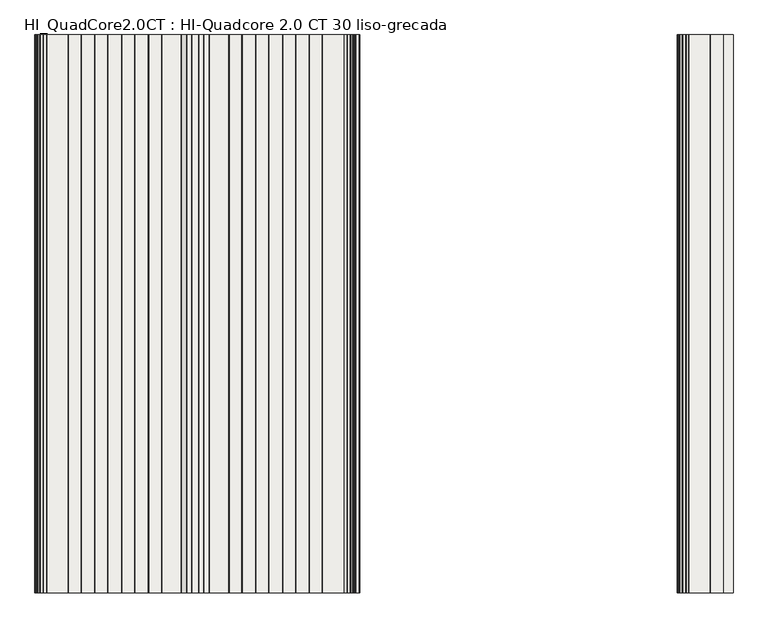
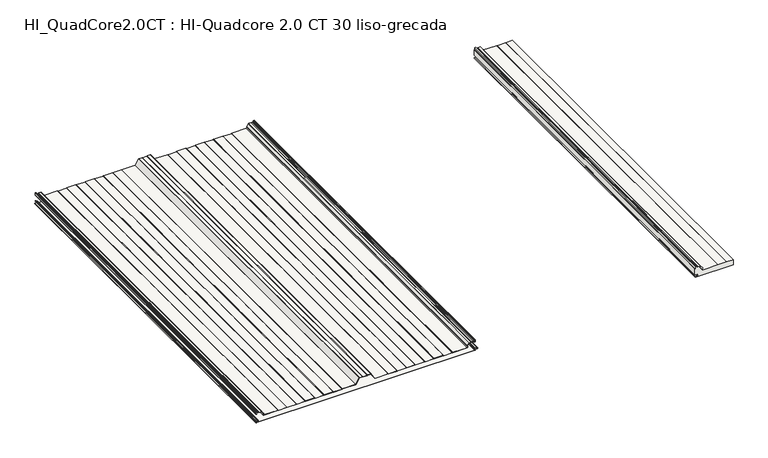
"""IFC4 building model written with IfcOpenShell, lengths in millimetres: slab geometry, HI_QuadCore2.0CT : HI-Quadcore 2.0 CT 30 liso-grecada."""

from ifc_helpers import new_model, si_unit, point, frame, frame_2d, origin, place, context, project, spatial, polyline, circle_curve, trimmed, segment, composite_curve, outline, extrude, source, transform, mapped, element, save
from ifc_brep_helpers import plane_surface, cylinder_surface, revolved_surface, advanced_brep


def hi_quadcore2_0ct_hi_quadcore_2_0_ct_30_liso_grecada_7c60fad7(model_context):
    return source(origin(), model_context, "Body", "SolidModel", [
        advanced_brep(
        [(2305.1475465, 0.0, 45.7425833), (2301.3824194, 0.0, 47.9163804), (2300.0, 0.0, 47.9163804), (2300.0, 0.0, 16.239302), (2307.510215, 0.0, 16.239302), (2307.510215, 0.0, 15.4391074), (2303.6125693, 0.0, 15.4391074), (2302.4319301, 0.0, 14.2584682), (2303.4276302, 0.0, 13.0866965), (2311.8278581, 0.0, 11.7547343), (2311.7995989, 0.0, 4.4809044), (2301.8467032, 0.0, 2.9844289), (2302.0100062, 0.0, 0.8), (2500.0, 0.0, 0.8), (2500.0, 0.0, 29.2), (2467.3816122, 0.0, 29.2), (2465.6495614, 0.0, 28.2), (2420.6152775, 0.0, 28.2), (2418.8832267, 0.0, 29.2), (2342.7795617, 0.0, 29.2), (2339.9577511, 0.0, 36.2744555), (2340.9081159, 0.0, 37.0692788), (2341.1089583, 0.0, 38.5361221), (2331.7709236, 0.0, 52.1230469), (2330.8643848, 0.0, 52.6), (2321.5371875, 0.0, 52.6), (2319.8324194, 0.0, 51.8110374), (2318.1276514, 0.0, 52.6), (2311.4016791, 0.0, 52.6), (2309.2490397, 0.0, 54.0383476), (2307.3922843, 0.0, 58.5209518), (2306.3760168, 0.0, 59.2), (2302.7824194, 0.0, 59.2), (2301.6824194, 0.0, 58.1), (2301.6824194, 0.0, 48.6669358), (2305.5475465, 0.0, 46.4354036), (2305.1475465, 2000.0, 45.7425833), (2305.5475465, 2000.0, 46.4354036), (2301.6824194, 2000.0, 48.6669358), (2301.6824194, 2000.0, 58.1), (2302.7824194, 2000.0, 59.2), (2306.3760168, 2000.0, 59.2), (2307.3922843, 2000.0, 58.5209518), (2309.2490397, 2000.0, 54.0383476), (2311.4016791, 2000.0, 52.6), (2318.1276514, 2000.0, 52.6), (2319.8324194, 2000.0, 51.8110374), (2321.5371875, 2000.0, 52.6), (2330.8643848, 2000.0, 52.6), (2331.7709236, 2000.0, 52.1230469), (2341.1089583, 2000.0, 38.5361221), (2340.9081159, 2000.0, 37.0692788), (2339.9577511, 2000.0, 36.2744555), (2342.7795617, 2000.0, 29.2), (2418.8832267, 2000.0, 29.2), (2420.6152775, 2000.0, 28.2), (2465.6495614, 2000.0, 28.2), (2467.3816122, 2000.0, 29.2), (2500.0, 2000.0, 29.2), (2500.0, 2000.0, 0.8), (2302.0100062, 2000.0, 0.8), (2301.8467032, 2000.0, 2.9844289), (2311.7995989, 2000.0, 4.4809044), (2311.8278581, 2000.0, 11.7547343), (2303.4273037, 2000.0, 13.0846342), (2302.4319301, 2000.0, 14.2584682), (2303.6125693, 2000.0, 15.4391074), (2307.510215, 2000.0, 15.4391074), (2307.510215, 2000.0, 16.239302), (2300.0, 2000.0, 16.239302), (2300.0, 2000.0, 47.9163804), (2301.3824194, 2000.0, 47.9163804)],
        [
            (0, 1),
            (1, 2),
            (2, 3),
            (3, 4),
            (4, 5),
            (5, 6),
            (6, 7, circle_curve(frame((2303.6125693, 0.0, 14.2584682), z_axis=(0.0, -1.0, 0.0), x_axis=(1.0, 0.0, 0.0)), 1.1806391)),
            (7, 8, circle_curve(frame((2303.6121809, 0.0, 14.2524448), z_axis=(0.0, -1.0, 0.0), x_axis=(1.0, 0.0, 0.0)), 1.1802661)),
            (8, 9),
            (9, 10, circle_curve(frame((2311.2524398, 0.0, 8.12), z_axis=(0.0, 1.0, 0.0), x_axis=(1.0, 0.0, 0.0)), 3.68)),
            (10, 11),
            (11, 12, circle_curve(frame((2302.0100062, 0.0, 1.8983185), z_axis=(0.0, -1.0, 0.0), x_axis=(1.0, 0.0, 0.0)), 1.0983185)),
            (12, 13),
            (13, 14),
            (14, 15),
            (15, 16),
            (16, 17),
            (17, 18),
            (18, 19),
            (19, 20, circle_curve(frame((2342.7795617, 0.0, 33.3), z_axis=(0.0, 1.0, 0.0), x_axis=(1.0, 0.0, 0.0)), 4.1)),
            (20, 21),
            (21, 22, circle_curve(frame((2340.2024195, 0.0, 37.9130752), z_axis=(0.0, -1.0, 0.0), x_axis=(1.0, 0.0, 0.0)), 1.1)),
            (22, 23),
            (23, 24, circle_curve(frame((2330.8643848, 0.0, 51.5), z_axis=(0.0, -1.0, 0.0), x_axis=(1.0, 0.0, 0.0)), 1.1)),
            (24, 25),
            (25, 26),
            (26, 27),
            (27, 28),
            (28, 29, circle_curve(frame((2311.4016791, 0.0, 54.93), z_axis=(0.0, 1.0, 0.0), x_axis=(1.0, 0.0, 0.0)), 2.33)),
            (29, 30),
            (30, 31, circle_curve(frame((2306.3760168, 0.0, 58.1), z_axis=(0.0, -1.0, 0.0), x_axis=(1.0, 0.0, 0.0)), 1.1)),
            (31, 32),
            (32, 33, circle_curve(frame((2302.7824194, 0.0, 58.1), z_axis=(0.0, -1.0, 0.0), x_axis=(1.0, 0.0, 0.0)), 1.1)),
            (33, 34),
            (34, 35),
            (35, 0),
            (36, 37),
            (37, 38),
            (38, 39),
            (39, 40, circle_curve(frame((2302.7824194, 2000.0, 58.1), z_axis=(0.0, 1.0, 0.0), x_axis=(1.0, 0.0, 0.0)), 1.1)),
            (40, 41),
            (41, 42, circle_curve(frame((2306.3760168, 2000.0, 58.1), z_axis=(0.0, 1.0, 0.0), x_axis=(1.0, 0.0, 0.0)), 1.1)),
            (42, 43),
            (43, 44, circle_curve(frame((2311.4016791, 2000.0, 54.93), z_axis=(0.0, -1.0, 0.0), x_axis=(1.0, 0.0, 0.0)), 2.33)),
            (44, 45),
            (45, 46),
            (46, 47),
            (47, 48),
            (48, 49, circle_curve(frame((2330.8643848, 2000.0, 51.5), z_axis=(0.0, 1.0, 0.0), x_axis=(1.0, 0.0, 0.0)), 1.1)),
            (49, 50),
            (50, 51, circle_curve(frame((2340.2024195, 2000.0, 37.9130752), z_axis=(0.0, 1.0, 0.0), x_axis=(1.0, 0.0, 0.0)), 1.1)),
            (51, 52),
            (52, 53, circle_curve(frame((2342.7795617, 2000.0, 33.3), z_axis=(0.0, -1.0, 0.0), x_axis=(1.0, 0.0, 0.0)), 4.1)),
            (53, 54),
            (54, 55),
            (55, 56),
            (56, 57),
            (57, 58),
            (58, 59),
            (59, 60),
            (60, 61, circle_curve(frame((2302.0100062, 2000.0, 1.8983185), z_axis=(0.0, 1.0, 0.0), x_axis=(1.0, 0.0, 0.0)), 1.0983185)),
            (61, 62),
            (62, 63, circle_curve(frame((2311.2524398, 2000.0, 8.12), z_axis=(0.0, -1.0, 0.0), x_axis=(1.0, 0.0, 0.0)), 3.68)),
            (63, 64),
            (64, 65, circle_curve(frame((2303.6121809, 2000.0, 14.2524448), z_axis=(0.0, 1.0, 0.0), x_axis=(1.0, 0.0, 0.0)), 1.1802661)),
            (65, 66, circle_curve(frame((2303.6125693, 2000.0, 14.2584682), z_axis=(0.0, 1.0, 0.0), x_axis=(1.0, 0.0, 0.0)), 1.1806391)),
            (66, 67),
            (67, 68),
            (68, 69),
            (69, 70),
            (70, 71),
            (71, 36),
            (0, 36),
            (71, 1),
            (70, 2),
            (69, 3),
            (57, 15),
            (14, 58),
            (56, 16),
            (55, 17),
            (54, 18),
            (53, 19),
            (52, 20),
            (51, 21),
            (50, 22),
            (49, 23),
            (48, 24),
            (47, 25),
            (46, 26),
            (45, 27),
            (44, 28),
            (43, 29),
            (42, 30),
            (41, 31),
            (40, 32),
            (39, 33),
            (38, 34),
            (37, 35),
            (68, 4),
            (67, 5),
            (66, 6),
            (65, 7),
            (64, 8),
            (63, 9),
            (62, 10),
            (61, 11),
            (60, 12),
            (59, 13),
        ],
        [
            plane_surface(frame((2301.3824194, 0.0, 47.9163804), z_axis=(0.0, -1.0, 0.0), x_axis=(-0.866025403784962, 0.0, 0.4999999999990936))),
            plane_surface(frame((2301.3824194, 2000.0, 47.9163804), z_axis=(0.0, 1.0, 0.0), x_axis=(0.866025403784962, 0.0, -0.4999999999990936))),
            plane_surface(frame((2305.1475465, 0.0, 45.7425833), z_axis=(0.4999999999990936, 0.0, 0.866025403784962), x_axis=(0.0, 1.0, 0.0))),
            plane_surface(frame((2301.3824194, 0.0, 47.9163804), z_axis=(0.0, 0.0, 1.0), x_axis=(0.0, 1.0, 0.0))),
            plane_surface(frame((2300.0, 0.0, 47.9163804), z_axis=(-1.0, 0.0, 0.0), x_axis=(0.0, 1.0, 0.0))),
            plane_surface(frame((2514.8832267, 0.0, 29.2), z_axis=(0.0, 0.0, 1.0), x_axis=(0.0, 1.0, 0.0))),
            plane_surface(frame((2467.3816122, 0.0, 29.2), z_axis=(-0.5000000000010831, 0.0, 0.8660254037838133), x_axis=(0.0, 1.0, 0.0))),
            plane_surface(frame((2465.6495614, 0.0, 28.2), z_axis=(0.0, 0.0, 1.0), x_axis=(0.0, 1.0, 0.0))),
            plane_surface(frame((2420.6152775, 0.0, 28.2), z_axis=(0.4999999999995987, 0.0, 0.8660254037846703), x_axis=(0.0, 1.0, 0.0))),
            plane_surface(frame((2418.8832267, 0.0, 29.2), z_axis=(0.0, 0.0, 1.0), x_axis=(0.0, 1.0, 0.0))),
            revolved_surface(polyline([(2346.8795617, 2000.0, 33.3), (2346.8795617, 0.0, 33.3)]), (2342.7795617, 2000.0, 33.3), (0.0, 1.0, 0.0)),
            plane_surface(frame((2339.9577511, 0.0, 36.2744555), z_axis=(0.6415422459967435, 0.0, -0.7670877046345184), x_axis=(0.0, 1.0, 0.0))),
            cylinder_surface(frame((2340.2024195, 2000.0, 37.9130752), z_axis=(0.0, -1.0, 0.0), x_axis=(1.0, 0.0, 0.0)), 1.1),
            plane_surface(frame((2341.1089583, 0.0, 38.5361221), z_axis=(0.8241261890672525, 0.0, 0.5664062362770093), x_axis=(0.0, 1.0, 0.0))),
            cylinder_surface(frame((2330.8643848, 2000.0, 51.5), z_axis=(0.0, -1.0, 0.0), x_axis=(1.0, 0.0, 0.0)), 1.1),
            plane_surface(frame((2330.8643848, 0.0, 52.6), z_axis=(0.0, 0.0, 1.0), x_axis=(0.0, 1.0, 0.0))),
            plane_surface(frame((2321.5371875, 0.0, 52.6), z_axis=(-0.419999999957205, 0.0, 0.9075241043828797), x_axis=(0.0, 1.0, 0.0))),
            plane_surface(frame((2319.8324194, 0.0, 51.8110374), z_axis=(0.4200000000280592, 0.0, 0.9075241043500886), x_axis=(0.0, 1.0, 0.0))),
            plane_surface(frame((2318.1276514, 0.0, 52.6), z_axis=(0.0, 0.0, 1.0), x_axis=(0.0, 1.0, 0.0))),
            revolved_surface(polyline([(2313.7316791, 2000.0, 54.93), (2313.7316791, 0.0, 54.93)]), (2311.4016791, 2000.0, 54.93), (0.0, 1.0, 0.0)),
            plane_surface(frame((2309.2490397, 0.0, 54.0383476), z_axis=(0.9238795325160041, 0.0, 0.3826834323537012), x_axis=(0.0, 1.0, 0.0))),
            cylinder_surface(frame((2306.3760168, 2000.0, 58.1), z_axis=(0.0, -1.0, 0.0), x_axis=(1.0, 0.0, 0.0)), 1.1),
            plane_surface(frame((2306.3760168, 0.0, 59.2), z_axis=(0.0, 0.0, 1.0), x_axis=(0.0, 1.0, 0.0))),
            cylinder_surface(frame((2302.7824194, 2000.0, 58.1), z_axis=(0.0, -1.0, 0.0), x_axis=(1.0, 0.0, 0.0)), 1.1),
            plane_surface(frame((2301.6824194, 0.0, 58.1), z_axis=(-1.0, 0.0, 0.0), x_axis=(0.0, 1.0, 0.0))),
            plane_surface(frame((2301.6824194, 0.0, 48.6669358), z_axis=(-0.49999999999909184, 0.0, -0.866025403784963), x_axis=(0.0, 1.0, 0.0))),
            plane_surface(frame((2305.5475465, 0.0, 46.4354036), z_axis=(-0.866025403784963, 0.0, 0.4999999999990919), x_axis=(0.0, 1.0, 0.0))),
            plane_surface(frame((2300.0, 0.0, 16.239302), z_axis=(0.0, 0.0, -1.0), x_axis=(0.0, 1.0, 0.0))),
            plane_surface(frame((2307.510215, 0.0, 16.239302), z_axis=(-1.0, 0.0, 0.0), x_axis=(0.0, 1.0, 0.0))),
            plane_surface(frame((2307.510215, 0.0, 15.4391074), z_axis=(0.0, 0.0, 1.0), x_axis=(0.0, 1.0, 0.0))),
            cylinder_surface(frame((2303.6125693, 2000.0, 14.2584682), z_axis=(0.0, -1.0, 0.0), x_axis=(1.0, 0.0, 0.0)), 1.1806391),
            cylinder_surface(frame((2303.6121809, 2000.0, 14.2524448), z_axis=(0.0, -1.0, 0.0), x_axis=(1.0, 0.0, 0.0)), 1.1802661),
            plane_surface(frame((2303.4273037, 0.0, 13.0846342), z_axis=(-0.1563636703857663, 0.0, -0.9876995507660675), x_axis=(0.0, 1.0, 0.0))),
            revolved_surface(polyline([(2314.9324398, 2000.0, 8.12), (2314.9324398, 0.0, 8.12)]), (2311.2524398, 2000.0, 8.12), (0.0, 1.0, 0.0)),
            plane_surface(frame((2311.7995989, 0.0, 4.4809044), z_axis=(-0.14868453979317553, 0.0, 0.9888846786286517), x_axis=(0.0, 1.0, 0.0))),
            cylinder_surface(frame((2302.0100062, 2000.0, 1.8983185), z_axis=(0.0, -1.0, 0.0), x_axis=(1.0, 0.0, 0.0)), 1.0983185),
            plane_surface(frame((2302.0100062, 0.0, 0.8), z_axis=(0.0, 0.0, -1.0), x_axis=(0.0, 1.0, 0.0))),
            plane_surface(frame((2500.0, 0.0, 76.2714688), z_axis=(1.0, 0.0, 0.0), x_axis=(0.0, 1.0, 0.0))),
        ],
        [
            (0, [[1, 2, 3, 4, 5, 6, 7, 8, 9, 10, 11, 12, 13, 14, 15, 16, 17, 18, 19, 20, 21, 22, 23, 24, 25, 26, 27, 28, 29, 30, 31, 32, 33, 34, 35, 36]]),
            (1, [[37, 38, 39, 40, 41, 42, 43, 44, 45, 46, 47, 48, 49, 50, 51, 52, 53, 54, 55, 56, 57, 58, 59, 60, 61, 62, 63, 64, 65, 66, 67, 68, 69, 70, 71, 72]]),
            (2, [[-1, 73, -72, 74]]),
            (3, [[-2, -74, -71, 75]]),
            (4, [[-75, -70, 76, -3]]),
            (5, [[77, -15, 78, -58]]),
            (6, [[-16, -77, -57, 79]]),
            (7, [[-17, -79, -56, 80]]),
            (8, [[-18, -80, -55, 81]]),
            (9, [[-19, -81, -54, 82]]),
            (10, [[-20, -82, -53, 83]]),
            (11, [[-21, -83, -52, 84]]),
            (12, [[-22, -84, -51, 85]]),
            (13, [[-23, -85, -50, 86]]),
            (14, [[-24, -86, -49, 87]]),
            (15, [[-25, -87, -48, 88]]),
            (16, [[-26, -88, -47, 89]]),
            (17, [[-27, -89, -46, 90]]),
            (18, [[-28, -90, -45, 91]]),
            (19, [[-29, -91, -44, 92]]),
            (20, [[-30, -92, -43, 93]]),
            (21, [[-31, -93, -42, 94]]),
            (22, [[-32, -94, -41, 95]]),
            (23, [[-33, -95, -40, 96]]),
            (24, [[-34, -96, -39, 97]]),
            (25, [[-35, -97, -38, 98]]),
            (26, [[-36, -98, -37, -73]]),
            (27, [[-76, -69, 99, -4]]),
            (28, [[-5, -99, -68, 100]]),
            (29, [[-6, -100, -67, 101]]),
            (30, [[-7, -101, -66, 102]]),
            (31, [[-8, -102, -65, 103]]),
            (32, [[-9, -103, -64, 104]]),
            (33, [[-10, -104, -63, 105]]),
            (34, [[-11, -105, -62, 106]]),
            (35, [[-12, -106, -61, 107]]),
            (36, [[-107, -60, 108, -13]]),
            (37, [[-14, -108, -59, -78]]),
        ],
    ),
        advanced_brep(
        [(3.6125412, 0.0, 16.239302), (1.6320413, 0.0, 14.2588021), (3.3026044, 0.0, 12.2960661), (11.7027672, 0.0, 10.9645747), (11.6806488, 0.0, 5.2720118), (1.7277556, 0.0, 3.7755366), (2.0100062, 0.0, 0.0), (1147.9590685, 0.0, 0.0), (1150.1391392, 0.0, 2.1800708), (1152.6636211, 0.0, 5.0353254), (1160.9083654, 0.0, 6.0356531), (1160.9083654, 0.0, 10.2043469), (1150.9419234, 0.0, 11.413338), (1148.6324398, 0.0, 14.0237344), (1147.5187526, 0.0, 16.24), (1142.7624398, 0.0, 16.24), (1142.7624398, 0.0, 15.44), (1147.2282701, 0.0, 15.44), (1147.8324398, 0.0, 14.0237344), (1150.8450446, 0.0, 10.6192254), (1160.7843299, 0.0, 9.4135286), (1160.7843221, 0.0, 6.8264698), (1152.5664905, 0.0, 5.8294074), (1149.3391392, 0.0, 2.1800708), (1147.9590685, 0.0, 0.8), (2.0100062, 0.0, 0.8), (1.8467032, 0.0, 2.9844289), (11.7995989, 0.0, 4.4809044), (11.8278581, 0.0, 11.7547343), (3.4279307, 0.0, 13.084535), (2.4319301, 0.0, 14.2584682), (3.6125693, 0.0, 15.4391074), (7.510215, 0.0, 15.4391074), (7.510215, 0.0, 16.239302), (3.6125412, 2000.0, 16.239302), (7.510215, 2000.0, 16.239302), (7.510215, 2000.0, 15.4391074), (3.6125693, 2000.0, 15.4391074), (2.4319301, 2000.0, 14.2584682), (3.4276302, 2000.0, 13.0866965), (11.8278581, 2000.0, 11.7547343), (11.7995989, 2000.0, 4.4809044), (1.8467032, 2000.0, 2.9844289), (2.0100062, 2000.0, 0.8), (1147.9590685, 2000.0, 0.8), (1149.3391392, 2000.0, 2.1800708), (1152.5664905, 2000.0, 5.8294074), (1160.7843221, 2000.0, 6.8264698), (1160.7843299, 2000.0, 9.4135286), (1150.8450446, 2000.0, 10.6192254), (1147.8324398, 2000.0, 14.0237344), (1147.2282701, 2000.0, 15.44), (1142.7624398, 2000.0, 15.44), (1142.7624398, 2000.0, 16.24), (1147.5187526, 2000.0, 16.24), (1148.6324398, 2000.0, 14.0237344), (1150.9419234, 2000.0, 11.413338), (1160.9083654, 2000.0, 10.2043469), (1160.9083654, 2000.0, 6.0356531), (1152.6636211, 2000.0, 5.0353254), (1150.1391392, 2000.0, 2.1800708), (1147.9590685, 2000.0, 0.0), (2.0100062, 2000.0, 0.0), (1.7277556, 2000.0, 3.7755366), (11.6806488, 2000.0, 5.2720118), (11.7027672, 2000.0, 10.9645747), (3.3028397, 2000.0, 12.2943753), (1.6320413, 2000.0, 14.2588021)],
        [
            (0, 1, circle_curve(frame((3.6125412, 0.0, 14.2588021), z_axis=(0.0, -1.0, 0.0), x_axis=(1.0, 0.0, 0.0)), 1.9804999)),
            (1, 2, circle_curve(frame((3.612237, 0.0, 14.2519163), z_axis=(0.0, -1.0, 0.0), x_axis=(1.0, 0.0, 0.0)), 1.9802076)),
            (2, 3),
            (3, 4, circle_curve(frame((11.2524398, 0.0, 8.12), z_axis=(0.0, 1.0, 0.0), x_axis=(1.0, 0.0, 0.0)), 2.88)),
            (4, 5),
            (5, 6, circle_curve(frame((2.0100062, 0.0, 1.8983185), z_axis=(0.0, -1.0, 0.0), x_axis=(1.0, 0.0, 0.0)), 1.8983185)),
            (6, 7),
            (7, 8, circle_curve(frame((1147.9590685, 0.0, 2.1800708), z_axis=(0.0, -1.0, 0.0), x_axis=(1.0, 0.0, 0.0)), 2.1800708)),
            (8, 9, circle_curve(frame((1153.0160638, 0.0, 2.1800708), z_axis=(0.0, 1.0, 0.0), x_axis=(1.0, 0.0, 0.0)), 2.8769246)),
            (9, 10),
            (10, 11, circle_curve(frame((1160.5224398, 0.0, 8.12), z_axis=(0.0, -1.0, 0.0), x_axis=(1.0, 0.0, 0.0)), 2.1197737)),
            (11, 12),
            (12, 13, circle_curve(frame((1151.2624398, 0.0, 14.0237344), z_axis=(0.0, 1.0, 0.0), x_axis=(1.0, 0.0, 0.0)), 2.63)),
            (13, 14, circle_curve(frame((1145.8703839, 0.0, 14.0237344), z_axis=(0.0, -1.0, 0.0), x_axis=(1.0, 0.0, 0.0)), 2.7620559)),
            (14, 15),
            (15, 16),
            (16, 17),
            (17, 18, circle_curve(frame((1145.8703839, 0.0, 14.0237344), z_axis=(0.0, 1.0, 0.0), x_axis=(1.0, 0.0, 0.0)), 1.9620559)),
            (18, 19, circle_curve(frame((1151.2624398, 0.0, 14.0237344), z_axis=(0.0, -1.0, 0.0), x_axis=(1.0, 0.0, 0.0)), 3.43)),
            (19, 20),
            (20, 21, circle_curve(frame((1160.5224398, 0.0, 8.12), z_axis=(0.0, 1.0, 0.0), x_axis=(1.0, 0.0, 0.0)), 1.3197737)),
            (21, 22),
            (22, 23, circle_curve(frame((1153.0160638, 0.0, 2.1800708), z_axis=(0.0, -1.0, 0.0), x_axis=(1.0, 0.0, 0.0)), 3.6769246)),
            (23, 24, circle_curve(frame((1147.9590685, 0.0, 2.1800708), z_axis=(0.0, 1.0, 0.0), x_axis=(1.0, 0.0, 0.0)), 1.3800708)),
            (24, 25),
            (25, 26, circle_curve(frame((2.0100062, 0.0, 1.8983185), z_axis=(0.0, 1.0, 0.0), x_axis=(1.0, 0.0, 0.0)), 1.0983185)),
            (26, 27),
            (27, 28, circle_curve(frame((11.2524398, 0.0, 8.12), z_axis=(0.0, -1.0, 0.0), x_axis=(1.0, 0.0, 0.0)), 3.68)),
            (28, 29),
            (29, 30, circle_curve(frame((3.6121809, 0.0, 14.2524448), z_axis=(0.0, 1.0, 0.0), x_axis=(1.0, 0.0, 0.0)), 1.1802661)),
            (30, 31, circle_curve(frame((3.6125693, 0.0, 14.2584682), z_axis=(0.0, 1.0, 0.0), x_axis=(1.0, 0.0, 0.0)), 1.1806391)),
            (31, 32),
            (32, 33),
            (33, 0),
            (34, 35),
            (35, 36),
            (36, 37),
            (37, 38, circle_curve(frame((3.6125693, 2000.0, 14.2584682), z_axis=(0.0, -1.0, 0.0), x_axis=(1.0, 0.0, 0.0)), 1.1806391)),
            (38, 39, circle_curve(frame((3.6121809, 2000.0, 14.2524448), z_axis=(0.0, -1.0, 0.0), x_axis=(1.0, 0.0, 0.0)), 1.1802661)),
            (39, 40),
            (40, 41, circle_curve(frame((11.2524398, 2000.0, 8.12), z_axis=(0.0, 1.0, 0.0), x_axis=(1.0, 0.0, 0.0)), 3.68)),
            (41, 42),
            (42, 43, circle_curve(frame((2.0100062, 2000.0, 1.8983185), z_axis=(0.0, -1.0, 0.0), x_axis=(1.0, 0.0, 0.0)), 1.0983185)),
            (43, 44),
            (44, 45, circle_curve(frame((1147.9590685, 2000.0, 2.1800708), z_axis=(0.0, -1.0, 0.0), x_axis=(1.0, 0.0, 0.0)), 1.3800708)),
            (45, 46, circle_curve(frame((1153.0160638, 2000.0, 2.1800708), z_axis=(0.0, 1.0, 0.0), x_axis=(1.0, 0.0, 0.0)), 3.6769246)),
            (46, 47),
            (47, 48, circle_curve(frame((1160.5224398, 2000.0, 8.12), z_axis=(0.0, -1.0, 0.0), x_axis=(1.0, 0.0, 0.0)), 1.3197737)),
            (48, 49),
            (49, 50, circle_curve(frame((1151.2624398, 2000.0, 14.0237344), z_axis=(0.0, 1.0, 0.0), x_axis=(1.0, 0.0, 0.0)), 3.43)),
            (50, 51, circle_curve(frame((1145.8703839, 2000.0, 14.0237344), z_axis=(0.0, -1.0, 0.0), x_axis=(1.0, 0.0, 0.0)), 1.9620559)),
            (51, 52),
            (52, 53),
            (53, 54),
            (54, 55, circle_curve(frame((1145.8703839, 2000.0, 14.0237344), z_axis=(0.0, 1.0, 0.0), x_axis=(1.0, 0.0, 0.0)), 2.7620559)),
            (55, 56, circle_curve(frame((1151.2624398, 2000.0, 14.0237344), z_axis=(0.0, -1.0, 0.0), x_axis=(1.0, 0.0, 0.0)), 2.63)),
            (56, 57),
            (57, 58, circle_curve(frame((1160.5224398, 2000.0, 8.12), z_axis=(0.0, 1.0, 0.0), x_axis=(1.0, 0.0, 0.0)), 2.1197737)),
            (58, 59),
            (59, 60, circle_curve(frame((1153.0160638, 2000.0, 2.1800708), z_axis=(0.0, -1.0, 0.0), x_axis=(1.0, 0.0, 0.0)), 2.8769246)),
            (60, 61, circle_curve(frame((1147.9590685, 2000.0, 2.1800708), z_axis=(0.0, 1.0, 0.0), x_axis=(1.0, 0.0, 0.0)), 2.1800708)),
            (61, 62),
            (62, 63, circle_curve(frame((2.0100062, 2000.0, 1.8983185), z_axis=(0.0, 1.0, 0.0), x_axis=(1.0, 0.0, 0.0)), 1.8983185)),
            (63, 64),
            (64, 65, circle_curve(frame((11.2524398, 2000.0, 8.12), z_axis=(0.0, -1.0, 0.0), x_axis=(1.0, 0.0, 0.0)), 2.88)),
            (65, 66),
            (66, 67, circle_curve(frame((3.612237, 2000.0, 14.2519163), z_axis=(0.0, 1.0, 0.0), x_axis=(1.0, 0.0, 0.0)), 1.9802076)),
            (67, 34, circle_curve(frame((3.6125412, 2000.0, 14.2588021), z_axis=(0.0, 1.0, 0.0), x_axis=(1.0, 0.0, 0.0)), 1.9804999)),
            (0, 34),
            (67, 1),
            (66, 2),
            (65, 3),
            (64, 4),
            (63, 5),
            (62, 6),
            (61, 7),
            (60, 8),
            (59, 9),
            (58, 10),
            (57, 11),
            (56, 12),
            (55, 13),
            (54, 14),
            (53, 15),
            (52, 16),
            (51, 17),
            (50, 18),
            (49, 19),
            (48, 20),
            (47, 21),
            (46, 22),
            (45, 23),
            (44, 24),
            (43, 25),
            (42, 26),
            (41, 27),
            (40, 28),
            (39, 29),
            (38, 30),
            (37, 31),
            (36, 32),
            (35, 33),
        ],
        [
            plane_surface(frame((5.5930411, 0.0, 14.2588021), z_axis=(0.0, -1.0, 0.0), x_axis=(0.0, 0.0, 1.0))),
            plane_surface(frame((5.5930411, 2000.0, 14.2588021), z_axis=(0.0, 1.0, 0.0), x_axis=(0.0, 0.0, -1.0))),
            cylinder_surface(frame((3.6125412, 2000.0, 14.2588021), z_axis=(0.0, -1.0, 0.0), x_axis=(1.0, 0.0, 0.0)), 1.9804999),
            cylinder_surface(frame((3.612237, 2000.0, 14.2519163), z_axis=(0.0, -1.0, 0.0), x_axis=(1.0, 0.0, 0.0)), 1.9802076),
            plane_surface(frame((3.3028397, 0.0, 12.2943753), z_axis=(-0.15636367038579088, 0.0, -0.9876995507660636), x_axis=(0.0, 1.0, 0.0))),
            revolved_surface(polyline([(14.1324398, 2000.0, 8.12), (14.1324398, 0.0, 8.12)]), (11.2524398, 2000.0, 8.12), (0.0, 1.0, 0.0)),
            plane_surface(frame((11.6806488, 0.0, 5.2720118), z_axis=(-0.14868453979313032, 0.0, 0.9888846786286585), x_axis=(0.0, 1.0, 0.0))),
            cylinder_surface(frame((2.0100062, 2000.0, 1.8983185), z_axis=(0.0, -1.0, 0.0), x_axis=(1.0, 0.0, 0.0)), 1.8983185),
            plane_surface(frame((2.0100062, 0.0, 0.0), z_axis=(0.0, 0.0, -1.0), x_axis=(0.0, 1.0, 0.0))),
            cylinder_surface(frame((1147.9590685, 2000.0, 2.1800708), z_axis=(0.0, -1.0, 0.0), x_axis=(1.0, 0.0, 0.0)), 2.1800708),
            revolved_surface(polyline([(1155.8929884, 2000.0, 2.1800708), (1155.8929884, 0.0, 2.1800708)]), (1153.0160638, 2000.0, 2.1800708), (0.0, 1.0, 0.0)),
            plane_surface(frame((1152.6636211, 0.0, 5.0353254), z_axis=(0.12044584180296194, 0.0, -0.9927198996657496), x_axis=(0.0, 1.0, 0.0))),
            cylinder_surface(frame((1160.5224398, 2000.0, 8.12), z_axis=(0.0, -1.0, 0.0), x_axis=(1.0, 0.0, 0.0)), 2.1197737),
            plane_surface(frame((1160.9083654, 0.0, 10.2043469), z_axis=(0.12042339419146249, 0.0, 0.9927226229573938), x_axis=(0.0, 1.0, 0.0))),
            revolved_surface(polyline([(1153.8924398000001, 2000.0, 14.0237344), (1153.8924398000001, 0.0, 14.0237344)]), (1151.2624398, 2000.0, 14.0237344), (0.0, 1.0, 0.0)),
            cylinder_surface(frame((1145.8703839, 2000.0, 14.0237344), z_axis=(0.0, -1.0, 0.0), x_axis=(1.0, 0.0, 0.0)), 2.7620559),
            plane_surface(frame((1147.5187526, 0.0, 16.24), z_axis=(0.0, 0.0, 1.0), x_axis=(0.0, 1.0, 0.0))),
            plane_surface(frame((1142.7624398, 0.0, 16.24), z_axis=(-1.0, 0.0, 0.0), x_axis=(0.0, 1.0, 0.0))),
            plane_surface(frame((1142.7624398, 0.0, 15.44), z_axis=(0.0, 0.0, -1.0), x_axis=(0.0, 1.0, 0.0))),
            revolved_surface(polyline([(1147.8324398, 2000.0, 14.0237344), (1147.8324398, 0.0, 14.0237344)]), (1145.8703839, 2000.0, 14.0237344), (0.0, 1.0, 0.0)),
            cylinder_surface(frame((1151.2624398, 2000.0, 14.0237344), z_axis=(0.0, -1.0, 0.0), x_axis=(1.0, 0.0, 0.0)), 3.43),
            plane_surface(frame((1150.8450446, 0.0, 10.6192254), z_axis=(-0.12042339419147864, 0.0, -0.9927226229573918), x_axis=(0.0, 1.0, 0.0))),
            revolved_surface(polyline([(1161.8422135, 2000.0, 8.12), (1161.8422135, 0.0, 8.12)]), (1160.5224398, 2000.0, 8.12), (0.0, 1.0, 0.0)),
            plane_surface(frame((1160.7843221, 0.0, 6.8264698), z_axis=(-0.12044584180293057, 0.0, 0.9927198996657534), x_axis=(0.0, 1.0, 0.0))),
            cylinder_surface(frame((1153.0160638, 2000.0, 2.1800708), z_axis=(0.0, -1.0, 0.0), x_axis=(1.0, 0.0, 0.0)), 3.6769246),
            revolved_surface(polyline([(1149.3391393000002, 2000.0, 2.1800708), (1149.3391393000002, 0.0, 2.1800708)]), (1147.9590685, 2000.0, 2.1800708), (0.0, 1.0, 0.0)),
            plane_surface(frame((1147.9590685, 0.0, 0.8), z_axis=(0.0, 0.0, 1.0), x_axis=(0.0, 1.0, 0.0))),
            revolved_surface(polyline([(3.1083247, 2000.0, 1.8983185), (3.1083247, 0.0, 1.8983185)]), (2.0100062, 2000.0, 1.8983185), (0.0, 1.0, 0.0)),
            plane_surface(frame((1.8467032, 0.0, 2.9844289), z_axis=(0.14868453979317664, 0.0, -0.9888846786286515), x_axis=(0.0, 1.0, 0.0))),
            cylinder_surface(frame((11.2524398, 2000.0, 8.12), z_axis=(0.0, -1.0, 0.0), x_axis=(1.0, 0.0, 0.0)), 3.68),
            plane_surface(frame((11.8278581, 0.0, 11.7547343), z_axis=(0.15636367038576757, 0.0, 0.9876995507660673), x_axis=(0.0, 1.0, 0.0))),
            revolved_surface(polyline([(4.792447, 2000.0, 14.2524448), (4.792447, 0.0, 14.2524448)]), (3.6121809, 2000.0, 14.2524448), (0.0, 1.0, 0.0)),
            revolved_surface(polyline([(4.7932084, 2000.0, 14.2584682), (4.7932084, 0.0, 14.2584682)]), (3.6125693, 2000.0, 14.2584682), (0.0, 1.0, 0.0)),
            plane_surface(frame((3.6125693, 0.0, 15.4391074), z_axis=(0.0, 0.0, -1.0), x_axis=(0.0, 1.0, 0.0))),
            plane_surface(frame((7.510215, 0.0, 15.4391074), z_axis=(1.0, 0.0, 0.0), x_axis=(0.0, 1.0, 0.0))),
            plane_surface(frame((7.510215, 0.0, 16.239302), z_axis=(0.0, 0.0, 1.0), x_axis=(0.0, 1.0, 0.0))),
        ],
        [
            (0, [[1, 2, 3, 4, 5, 6, 7, 8, 9, 10, 11, 12, 13, 14, 15, 16, 17, 18, 19, 20, 21, 22, 23, 24, 25, 26, 27, 28, 29, 30, 31, 32, 33, 34]]),
            (1, [[35, 36, 37, 38, 39, 40, 41, 42, 43, 44, 45, 46, 47, 48, 49, 50, 51, 52, 53, 54, 55, 56, 57, 58, 59, 60, 61, 62, 63, 64, 65, 66, 67, 68]]),
            (2, [[-1, 69, -68, 70]]),
            (3, [[-2, -70, -67, 71]]),
            (4, [[-3, -71, -66, 72]]),
            (5, [[-4, -72, -65, 73]]),
            (6, [[-5, -73, -64, 74]]),
            (7, [[-6, -74, -63, 75]]),
            (8, [[-7, -75, -62, 76]]),
            (9, [[-8, -76, -61, 77]]),
            (10, [[-9, -77, -60, 78]]),
            (11, [[-10, -78, -59, 79]]),
            (12, [[-11, -79, -58, 80]]),
            (13, [[-12, -80, -57, 81]]),
            (14, [[-13, -81, -56, 82]]),
            (15, [[-14, -82, -55, 83]]),
            (16, [[-15, -83, -54, 84]]),
            (17, [[-16, -84, -53, 85]]),
            (18, [[-17, -85, -52, 86]]),
            (19, [[-18, -86, -51, 87]]),
            (20, [[-19, -87, -50, 88]]),
            (21, [[-20, -88, -49, 89]]),
            (22, [[-21, -89, -48, 90]]),
            (23, [[-22, -90, -47, 91]]),
            (24, [[-23, -91, -46, 92]]),
            (25, [[-24, -92, -45, 93]]),
            (26, [[-25, -93, -44, 94]]),
            (27, [[-26, -94, -43, 95]]),
            (28, [[-27, -95, -42, 96]]),
            (29, [[-28, -96, -41, 97]]),
            (30, [[-29, -97, -40, 98]]),
            (31, [[-30, -98, -39, 99]]),
            (32, [[-31, -99, -38, 100]]),
            (33, [[-32, -100, -37, 101]]),
            (34, [[-33, -101, -36, 102]]),
            (35, [[-34, -102, -35, -69]]),
        ],
    ),
        extrude(outline(composite_curve([segment(polyline([(47.9163804, 1.3824194), (45.7425833, 5.1475465), (46.4354036, 5.5475465), (48.6669358, 1.6824194), (58.1, 1.6824194)]), True, "CONTINUOUS"), segment(trimmed(circle_curve(frame_2d((58.1, 2.7824194)), 1.1), [point((58.1, 1.6824194))], [point((59.2, 2.7824194))], True, "CARTESIAN"), True, "CONTINUOUS"), segment(polyline([(59.2, 2.7824194), (59.2, 6.3760168)]), True, "CONTINUOUS"), segment(trimmed(circle_curve(frame_2d((58.1, 6.3760168)), 1.1), [point((59.2, 6.3760168))], [point((58.5209518, 7.3922843))], True, "CARTESIAN"), True, "CONTINUOUS"), segment(polyline([(58.5209518, 7.3922843), (54.0383476, 9.2490397)]), True, "CONTINUOUS"), segment(trimmed(circle_curve(frame_2d((54.93, 11.4016791)), 2.33), [point((54.0383476, 9.2490397))], [point((52.6, 11.4016791))], False, "CARTESIAN"), True, "CONTINUOUS"), segment(polyline([(52.6, 11.4016791), (52.6, 18.1276514), (51.8110374, 19.8324194), (52.6, 21.5371875), (52.6, 30.8643848)]), True, "CONTINUOUS"), segment(trimmed(circle_curve(frame_2d((51.5, 30.8643848)), 1.1), [point((52.6, 30.8643848))], [point((52.1230469, 31.7709236))], True, "CARTESIAN"), True, "CONTINUOUS"), segment(polyline([(52.1230469, 31.7709236), (38.5361221, 41.1089583)]), True, "CONTINUOUS"), segment(trimmed(circle_curve(frame_2d((37.9130752, 40.2024195)), 1.1), [point((38.5361221, 41.1089583))], [point((37.0692788, 40.9081159))], True, "CARTESIAN"), True, "CONTINUOUS"), segment(polyline([(37.0692788, 40.9081159), (36.2744555, 39.9577511)]), True, "CONTINUOUS"), segment(trimmed(circle_curve(frame_2d((33.3, 42.7795617)), 4.1), [point((36.2744555, 39.9577511))], [point((29.2, 42.7795617))], False, "CARTESIAN"), True, "CONTINUOUS"), segment(polyline([(29.2, 42.7795617), (29.2, 118.8832267), (28.2, 120.6152775), (28.2, 165.6495614), (29.2, 167.3816122), (29.2, 214.8832267), (28.2, 216.6152775), (28.2, 261.6495614), (29.2, 263.3816122), (29.2, 310.8832267), (28.2, 312.6152775), (28.2, 357.6495614), (29.2, 359.3816122), (29.2, 406.8832267), (28.2, 408.6152775), (28.2, 453.6495614), (29.2, 455.3816122), (29.2, 524.3619266)]), True, "CONTINUOUS"), segment(trimmed(circle_curve(frame_2d((31.53, 524.3619266)), 2.33), [point((29.2, 524.3619266))], [point((30.2833287, 526.330355))], False, "CARTESIAN"), True, "CONTINUOUS"), segment(polyline([(30.2833287, 526.330355), (58.6885573, 544.3203331)]), True, "CONTINUOUS"), segment(trimmed(circle_curve(frame_2d((58.1, 545.2496341)), 1.1), [point((58.6885573, 544.3203331))], [point((59.2, 545.2496341))], True, "CARTESIAN"), True, "CONTINUOUS"), segment(polyline([(59.2, 545.2496341), (59.2, 561.3832267), (57.7, 563.9813029), (57.7, 586.283536), (59.2, 588.8816122), (59.2, 605.0152048)]), True, "CONTINUOUS"), segment(trimmed(circle_curve(frame_2d((58.1, 605.0152048)), 1.1), [point((59.2, 605.0152048))], [point((58.6885573, 605.9445057))], True, "CARTESIAN"), True, "CONTINUOUS"), segment(polyline([(58.6885573, 605.9445057), (30.2833287, 623.9344839)]), True, "CONTINUOUS"), segment(trimmed(circle_curve(frame_2d((31.53, 625.9029123)), 2.33), [point((30.2833287, 623.9344839))], [point((29.2, 625.9029123))], False, "CARTESIAN"), True, "CONTINUOUS"), segment(polyline([(29.2, 625.9029123), (29.2, 694.8832267), (28.2, 696.6152775), (28.2, 741.6495614), (29.2, 743.3816122), (29.2, 790.8832267), (28.2, 792.6152775), (28.2, 837.6495614), (29.2, 839.3816122), (29.2, 886.8832267), (28.2, 888.6152775), (28.2, 933.6495614), (29.2, 935.3816122), (29.2, 982.8832267), (28.2, 984.6152775), (28.2, 1029.6495614), (29.2, 1031.3816122), (29.2, 1107.4852773)]), True, "CONTINUOUS"), segment(trimmed(circle_curve(frame_2d((33.3, 1107.4852773)), 4.1), [point((29.2, 1107.4852773))], [point((36.2744554, 1110.3070878))], False, "CARTESIAN"), True, "CONTINUOUS"), segment(polyline([(36.2744554, 1110.3070878), (37.0692788, 1109.356723)]), True, "CONTINUOUS"), segment(trimmed(circle_curve(frame_2d((37.9130753, 1110.0624194)), 1.1), [point((37.0692788, 1109.356723))], [point((38.5361221, 1109.1558806))], True, "CARTESIAN"), True, "CONTINUOUS"), segment(polyline([(38.5361221, 1109.1558806), (52.1230469, 1118.4939153)]), True, "CONTINUOUS"), segment(trimmed(circle_curve(frame_2d((51.5, 1119.4004541)), 1.1), [point((52.1230469, 1118.4939153))], [point((52.6, 1119.4004541))], True, "CARTESIAN"), True, "CONTINUOUS"), segment(polyline([(52.6, 1119.4004541), (52.6, 1128.7276514), (51.8110374, 1130.4324194), (52.6, 1132.1371875), (52.6, 1138.8631598)]), True, "CONTINUOUS"), segment(trimmed(circle_curve(frame_2d((54.93, 1138.8631598)), 2.33), [point((52.6, 1138.8631598))], [point((54.0383476, 1141.0157992))], False, "CARTESIAN"), True, "CONTINUOUS"), segment(polyline([(54.0383476, 1141.0157992), (58.5209518, 1142.8725546)]), True, "CONTINUOUS"), segment(trimmed(circle_curve(frame_2d((58.1, 1143.8888221)), 1.1), [point((58.5209518, 1142.8725546))], [point((59.2, 1143.8888221))], True, "CARTESIAN"), True, "CONTINUOUS"), segment(polyline([(59.2, 1143.8888221), (59.2, 1147.4824194)]), True, "CONTINUOUS"), segment(trimmed(circle_curve(frame_2d((58.1, 1147.4824194)), 1.1), [point((59.2, 1147.4824194))], [point((58.1, 1148.5824194))], True, "CARTESIAN"), True, "CONTINUOUS"), segment(polyline([(58.1, 1148.5824194), (48.6669358, 1148.5824194), (46.4354036, 1144.7172924), (45.7425833, 1145.1172924), (47.9163804, 1148.8824194)]), True, "CONTINUOUS"), segment(trimmed(circle_curve(frame_2d((48.7824058, 1148.3824194)), 1.0), [point((47.9163804, 1148.8824194))], [point((48.7824058, 1149.3824194))], False, "CARTESIAN"), True, "CONTINUOUS"), segment(polyline([(48.7824058, 1149.3824194), (58.1, 1149.3824194)]), True, "CONTINUOUS"), segment(trimmed(circle_curve(frame_2d((58.1, 1147.4824194)), 1.9), [point((58.1, 1149.3824194))], [point((60.0, 1147.4824194))], False, "CARTESIAN"), True, "CONTINUOUS"), segment(polyline([(60.0, 1147.4824194), (60.0, 1143.8888221)]), True, "CONTINUOUS"), segment(trimmed(circle_curve(frame_2d((58.1, 1143.8888221)), 1.9), [point((60.0, 1143.8888221))], [point((58.8270985, 1142.133451))], False, "CARTESIAN"), True, "CONTINUOUS"), segment(polyline([(58.8270985, 1142.133451), (54.3444944, 1140.2766955)]), True, "CONTINUOUS"), segment(trimmed(circle_curve(frame_2d((54.93, 1138.8631598)), 1.53), [point((54.3444944, 1140.2766955))], [point((53.4, 1138.8631598))], True, "CARTESIAN"), True, "CONTINUOUS"), segment(polyline([(53.4, 1138.8631598), (53.4, 1131.9610429), (52.6925567, 1130.4324194), (53.4, 1128.903796), (53.4, 1119.4004541)]), True, "CONTINUOUS"), segment(trimmed(circle_curve(frame_2d((51.5, 1119.4004541)), 1.9), [point((53.4, 1119.4004541))], [point((52.5761719, 1117.8346144))], False, "CARTESIAN"), True, "CONTINUOUS"), segment(polyline([(52.5761719, 1117.8346144), (38.9892471, 1108.4965797)]), True, "CONTINUOUS"), segment(trimmed(circle_curve(frame_2d((37.9130753, 1110.0624194)), 1.9), [point((38.9892471, 1108.4965797))], [point((36.4556086, 1108.8434892))], False, "CARTESIAN"), True, "CONTINUOUS"), segment(polyline([(36.4556086, 1108.8434892), (35.6777166, 1109.7736094)]), True, "CONTINUOUS"), segment(trimmed(circle_curve(frame_2d((33.3, 1107.4852773)), 3.3), [point((35.6777166, 1109.7736094))], [point((30.0, 1107.4852773))], True, "CARTESIAN"), True, "CONTINUOUS"), segment(polyline([(30.0, 1107.4852773), (30.0, 1031.5691766)]), True, "CONTINUOUS"), segment(trimmed(circle_curve(frame_2d((28.5, 1031.5691766)), 1.5), [point((30.0, 1031.5691766))], [point((29.7990381, 1030.8191766))], False, "CARTESIAN"), True, "CONTINUOUS"), segment(polyline([(29.7990381, 1030.8191766), (29.0, 1029.435202), (29.0, 984.8296369), (29.7990381, 983.4456623)]), True, "CONTINUOUS"), segment(trimmed(circle_curve(frame_2d((28.5, 982.6956623)), 1.5), [point((29.7990381, 983.4456623))], [point((30.0, 982.6956623))], False, "CARTESIAN"), True, "CONTINUOUS"), segment(polyline([(30.0, 982.6956623), (30.0, 935.5691766)]), True, "CONTINUOUS"), segment(trimmed(circle_curve(frame_2d((28.5, 935.5691766)), 1.5), [point((30.0, 935.5691766))], [point((29.7990381, 934.8191766))], False, "CARTESIAN"), True, "CONTINUOUS"), segment(polyline([(29.7990381, 934.8191766), (29.0, 933.435202), (29.0, 888.8296369), (29.7990381, 887.4456623)]), True, "CONTINUOUS"), segment(trimmed(circle_curve(frame_2d((28.5, 886.6956623)), 1.5), [point((29.7990381, 887.4456623))], [point((30.0, 886.6956623))], False, "CARTESIAN"), True, "CONTINUOUS"), segment(polyline([(30.0, 886.6956623), (30.0, 839.5691766)]), True, "CONTINUOUS"), segment(trimmed(circle_curve(frame_2d((28.5, 839.5691766)), 1.5), [point((30.0, 839.5691766))], [point((29.7990381, 838.8191766))], False, "CARTESIAN"), True, "CONTINUOUS"), segment(polyline([(29.7990381, 838.8191766), (29.0, 837.435202), (29.0, 792.8296369), (29.7990381, 791.4456623)]), True, "CONTINUOUS"), segment(trimmed(circle_curve(frame_2d((28.5, 790.6956623)), 1.5), [point((29.7990381, 791.4456623))], [point((30.0, 790.6956623))], False, "CARTESIAN"), True, "CONTINUOUS"), segment(polyline([(30.0, 790.6956623), (30.0, 743.5691766)]), True, "CONTINUOUS"), segment(trimmed(circle_curve(frame_2d((28.5, 743.5691766)), 1.5), [point((30.0, 743.5691766))], [point((29.7990381, 742.8191766))], False, "CARTESIAN"), True, "CONTINUOUS"), segment(polyline([(29.7990381, 742.8191766), (29.0, 741.435202), (29.0, 696.8296369), (29.7990381, 695.4456623)]), True, "CONTINUOUS"), segment(trimmed(circle_curve(frame_2d((28.5, 694.6956623)), 1.5), [point((29.7990381, 695.4456623))], [point((30.0, 694.6956623))], False, "CARTESIAN"), True, "CONTINUOUS"), segment(polyline([(30.0, 694.6956623), (30.0, 625.9029123)]), True, "CONTINUOUS"), segment(trimmed(circle_curve(frame_2d((31.53, 625.9029123)), 1.53), [point((30.0, 625.9029123))], [point((30.7113703, 624.6103391))], True, "CARTESIAN"), True, "CONTINUOUS"), segment(polyline([(30.7113703, 624.6103391), (59.116599, 606.620361)]), True, "CONTINUOUS"), segment(trimmed(circle_curve(frame_2d((58.1, 605.0152048)), 1.9), [point((59.116599, 606.620361))], [point((60.0, 605.0152048))], False, "CARTESIAN"), True, "CONTINUOUS"), segment(polyline([(60.0, 605.0152048), (60.0, 588.6672528), (58.5, 586.0691766), (58.5, 564.1956623), (60.0, 561.5975861), (60.0, 545.2496341)]), True, "CONTINUOUS"), segment(trimmed(circle_curve(frame_2d((58.1, 545.2496341)), 1.9), [point((60.0, 545.2496341))], [point((59.116599, 543.6444779))], False, "CARTESIAN"), True, "CONTINUOUS"), segment(polyline([(59.116599, 543.6444779), (30.7113703, 525.6544998)]), True, "CONTINUOUS"), segment(trimmed(circle_curve(frame_2d((31.53, 524.3619266)), 1.53), [point((30.7113703, 525.6544998))], [point((30.0, 524.3619266))], True, "CARTESIAN"), True, "CONTINUOUS"), segment(polyline([(30.0, 524.3619266), (30.0, 455.5691766)]), True, "CONTINUOUS"), segment(trimmed(circle_curve(frame_2d((28.5, 455.5691766)), 1.5), [point((30.0, 455.5691766))], [point((29.7990381, 454.8191766))], False, "CARTESIAN"), True, "CONTINUOUS"), segment(polyline([(29.7990381, 454.8191766), (29.0, 453.435202), (29.0, 408.8296369), (29.7990381, 407.4456623)]), True, "CONTINUOUS"), segment(trimmed(circle_curve(frame_2d((28.5, 406.6956623)), 1.5), [point((29.7990381, 407.4456623))], [point((30.0, 406.6956623))], False, "CARTESIAN"), True, "CONTINUOUS"), segment(polyline([(30.0, 406.6956623), (30.0, 359.5691766)]), True, "CONTINUOUS"), segment(trimmed(circle_curve(frame_2d((28.5, 359.5691766)), 1.5), [point((30.0, 359.5691766))], [point((29.7990381, 358.8191766))], False, "CARTESIAN"), True, "CONTINUOUS"), segment(polyline([(29.7990381, 358.8191766), (29.0, 357.435202), (29.0, 312.8296369), (29.7990381, 311.4456623)]), True, "CONTINUOUS"), segment(trimmed(circle_curve(frame_2d((28.5, 310.6956623)), 1.5), [point((29.7990381, 311.4456623))], [point((30.0, 310.6956623))], False, "CARTESIAN"), True, "CONTINUOUS"), segment(polyline([(30.0, 310.6956623), (30.0, 263.5691766)]), True, "CONTINUOUS"), segment(trimmed(circle_curve(frame_2d((28.5, 263.5691766)), 1.5), [point((30.0, 263.5691766))], [point((29.7990381, 262.8191766))], False, "CARTESIAN"), True, "CONTINUOUS"), segment(polyline([(29.7990381, 262.8191766), (29.0, 261.435202), (29.0, 216.8296369), (29.7990381, 215.4456623)]), True, "CONTINUOUS"), segment(trimmed(circle_curve(frame_2d((28.5, 214.6956623)), 1.5), [point((29.7990381, 215.4456623))], [point((30.0, 214.6956623))], False, "CARTESIAN"), True, "CONTINUOUS"), segment(polyline([(30.0, 214.6956623), (30.0, 167.5691766)]), True, "CONTINUOUS"), segment(trimmed(circle_curve(frame_2d((28.5, 167.5691766)), 1.5), [point((30.0, 167.5691766))], [point((29.7990381, 166.8191766))], False, "CARTESIAN"), True, "CONTINUOUS"), segment(polyline([(29.7990381, 166.8191766), (29.0, 165.435202), (29.0, 120.8296369), (29.7990381, 119.4456623)]), True, "CONTINUOUS"), segment(trimmed(circle_curve(frame_2d((28.5, 118.6956623)), 1.5), [point((29.7990381, 119.4456623))], [point((30.0, 118.6956623))], False, "CARTESIAN"), True, "CONTINUOUS"), segment(polyline([(30.0, 118.6956623), (30.0, 42.7795617)]), True, "CONTINUOUS"), segment(trimmed(circle_curve(frame_2d((33.3, 42.7795617)), 3.3), [point((30.0, 42.7795617))], [point((35.6777166, 40.4912296))], True, "CARTESIAN"), True, "CONTINUOUS"), segment(polyline([(35.6777166, 40.4912296), (36.4556086, 41.4213497)]), True, "CONTINUOUS"), segment(trimmed(circle_curve(frame_2d((37.9130752, 40.2024195)), 1.9), [point((36.4556086, 41.4213497))], [point((38.9892471, 41.7682592))], False, "CARTESIAN"), True, "CONTINUOUS"), segment(polyline([(38.9892471, 41.7682592), (52.5761719, 32.4302246)]), True, "CONTINUOUS"), segment(trimmed(circle_curve(frame_2d((51.5, 30.8643848)), 1.9), [point((52.5761719, 32.4302246))], [point((53.4, 30.8643848))], False, "CARTESIAN"), True, "CONTINUOUS"), segment(polyline([(53.4, 30.8643848), (53.4, 21.3610429), (52.6925567, 19.8324194), (53.4, 18.303796), (53.4, 11.4016791)]), True, "CONTINUOUS"), segment(trimmed(circle_curve(frame_2d((54.93, 11.4016791)), 1.53), [point((53.4, 11.4016791))], [point((54.3444944, 9.9881434))], True, "CARTESIAN"), True, "CONTINUOUS"), segment(polyline([(54.3444944, 9.9881434), (58.8270985, 8.1313879)]), True, "CONTINUOUS"), segment(trimmed(circle_curve(frame_2d((58.1, 6.3760168)), 1.9), [point((58.8270985, 8.1313879))], [point((60.0, 6.3760168))], False, "CARTESIAN"), True, "CONTINUOUS"), segment(polyline([(60.0, 6.3760168), (60.0, 2.7824194)]), True, "CONTINUOUS"), segment(trimmed(circle_curve(frame_2d((58.1, 2.7824194)), 1.9), [point((60.0, 2.7824194))], [point((58.1, 0.8824194))], False, "CARTESIAN"), True, "CONTINUOUS"), segment(polyline([(58.1, 0.8824194), (48.7824058, 0.8824194)]), True, "CONTINUOUS"), segment(trimmed(circle_curve(frame_2d((48.7824058, 1.8824194)), 1.0), [point((48.7824058, 0.8824194))], [point((47.9163804, 1.3824194))], False, "CARTESIAN"), True, "CONTINUOUS")], self_intersect=False)), frame((0.0, 0.0, 0.0), z_axis=(0.0, 1.0, 0.0), x_axis=(0.0, 0.0, 1.0)), (0.0, 0.0, 1.0), 2000.0),
    ])


if __name__ == "__main__":
    model = new_model("IFC4")
    model_context = context("Model", 3, world=origin())
    ifc_project = project(units=[si_unit("LENGTHUNIT", "METRE", prefix="MILLI")], contexts=[model_context])
    site = spatial("IfcSite", under=ifc_project)
    building = spatial("IfcBuilding", under=site)
    placement = place(None, origin())
    hi_quadcore2_0ct_hi_quadcore_2_0_ct_30_liso_grecada_shape = hi_quadcore2_0ct_hi_quadcore_2_0_ct_30_liso_grecada_7c60fad7(model_context)
    element("IfcSlab", 1, ObjectType="HI_QuadCore2.0CT : HI-Quadcore 2.0 CT 30 liso-grecada", at=placement, inside=building, context=model_context, shape_type="MappedRepresentation", body=[
        mapped(hi_quadcore2_0ct_hi_quadcore_2_0_ct_30_liso_grecada_shape, transform((0.0, 0.0, 0.0), x_axis=(1.0, 0.0, 0.0), y_axis=(0.0, 1.0, 0.0), z_axis=(0.0, 0.0, 1.0))),
    ])
    save(model, "model.ifc")
